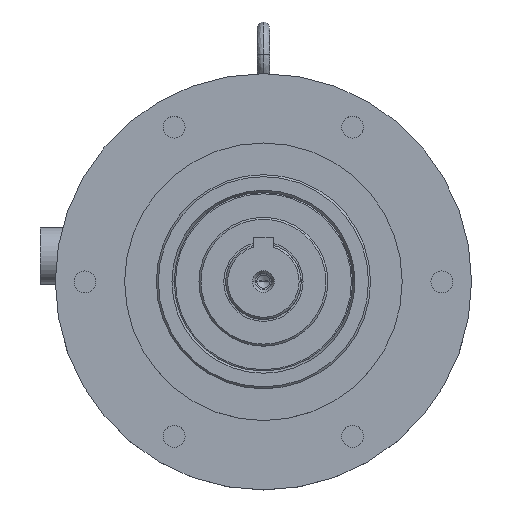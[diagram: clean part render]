
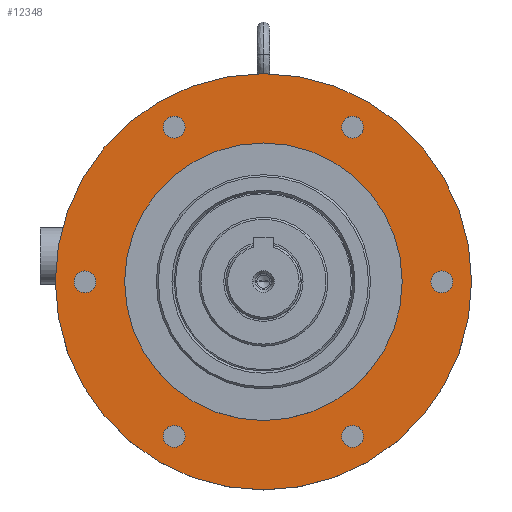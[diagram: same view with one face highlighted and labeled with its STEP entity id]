
A CAD part, top view. The second image highlights one B-rep face of the part: STEP entity #12348.
In plain terms, the highlighted planar face has unit normal (0, 0, 1).
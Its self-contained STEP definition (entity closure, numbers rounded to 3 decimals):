
#1955=CARTESIAN_POINT('',(0.,0.,0.));
#1956=DIRECTION('',(0.,0.,-1.));
#1957=DIRECTION('',(1.,0.,0.));
#1958=AXIS2_PLACEMENT_3D('',#1955,#1956,#1957);
#1960=CARTESIAN_POINT('',(0.,0.,0.));
#1961=DIRECTION('',(0.,0.,-1.));
#1962=DIRECTION('',(-1.,0.,0.));
#1963=AXIS2_PLACEMENT_3D('',#1960,#1961,#1962);
#1965=CARTESIAN_POINT('',(0.,0.,0.));
#1966=DIRECTION('',(0.,0.,1.));
#1967=DIRECTION('',(1.,0.,0.));
#1968=AXIS2_PLACEMENT_3D('',#1965,#1966,#1967);
#1970=CARTESIAN_POINT('',(0.,0.,0.));
#1971=DIRECTION('',(0.,0.,1.));
#1972=DIRECTION('',(-1.,0.,0.));
#1973=AXIS2_PLACEMENT_3D('',#1970,#1971,#1972);
#1975=CARTESIAN_POINT('',(-90.,0.,0.));
#1976=DIRECTION('',(0.,0.,1.));
#1977=DIRECTION('',(-1.,0.,0.));
#1978=AXIS2_PLACEMENT_3D('',#1975,#1976,#1977);
#1980=CARTESIAN_POINT('',(-90.,0.,0.));
#1981=DIRECTION('',(0.,0.,1.));
#1982=DIRECTION('',(1.,0.,0.));
#1983=AXIS2_PLACEMENT_3D('',#1980,#1981,#1982);
#1985=CARTESIAN_POINT('',(-45.,77.942,0.));
#1986=DIRECTION('',(0.,0.,1.));
#1987=DIRECTION('',(-0.5,0.866,0.));
#1988=AXIS2_PLACEMENT_3D('',#1985,#1986,#1987);
#1990=CARTESIAN_POINT('',(-45.,77.942,0.));
#1991=DIRECTION('',(0.,0.,1.));
#1992=DIRECTION('',(0.5,-0.866,0.));
#1993=AXIS2_PLACEMENT_3D('',#1990,#1991,#1992);
#1995=CARTESIAN_POINT('',(45.,77.942,0.));
#1996=DIRECTION('',(0.,0.,1.));
#1997=DIRECTION('',(0.5,0.866,0.));
#1998=AXIS2_PLACEMENT_3D('',#1995,#1996,#1997);
#2000=CARTESIAN_POINT('',(45.,77.942,0.));
#2001=DIRECTION('',(0.,0.,1.));
#2002=DIRECTION('',(-0.5,-0.866,0.));
#2003=AXIS2_PLACEMENT_3D('',#2000,#2001,#2002);
#2005=CARTESIAN_POINT('',(90.,0.,0.));
#2006=DIRECTION('',(0.,0.,1.));
#2007=DIRECTION('',(1.,0.,0.));
#2008=AXIS2_PLACEMENT_3D('',#2005,#2006,#2007);
#2010=CARTESIAN_POINT('',(90.,0.,0.));
#2011=DIRECTION('',(0.,0.,1.));
#2012=DIRECTION('',(-1.,0.,0.));
#2013=AXIS2_PLACEMENT_3D('',#2010,#2011,#2012);
#2015=CARTESIAN_POINT('',(45.,-77.942,0.));
#2016=DIRECTION('',(0.,0.,1.));
#2017=DIRECTION('',(0.5,-0.866,0.));
#2018=AXIS2_PLACEMENT_3D('',#2015,#2016,#2017);
#2020=CARTESIAN_POINT('',(45.,-77.942,0.));
#2021=DIRECTION('',(0.,0.,1.));
#2022=DIRECTION('',(-0.5,0.866,0.));
#2023=AXIS2_PLACEMENT_3D('',#2020,#2021,#2022);
#2025=CARTESIAN_POINT('',(-45.,-77.942,0.));
#2026=DIRECTION('',(0.,0.,1.));
#2027=DIRECTION('',(-0.5,-0.866,0.));
#2028=AXIS2_PLACEMENT_3D('',#2025,#2026,#2027);
#2030=CARTESIAN_POINT('',(-45.,-77.942,0.));
#2031=DIRECTION('',(0.,0.,1.));
#2032=DIRECTION('',(0.5,0.866,0.));
#2033=AXIS2_PLACEMENT_3D('',#2030,#2031,#2032);
#8123=CARTESIAN_POINT('',(105.,0.,0.));
#8124=VERTEX_POINT('',#8123);
#8125=CARTESIAN_POINT('',(-105.,0.,0.));
#8126=VERTEX_POINT('',#8125);
#8127=CARTESIAN_POINT('',(70.,0.,0.));
#8128=CARTESIAN_POINT('',(-70.,0.,0.));
#8129=VERTEX_POINT('',#8127);
#8130=VERTEX_POINT('',#8128);
#8131=CARTESIAN_POINT('',(-95.5,0.,0.));
#8132=CARTESIAN_POINT('',(-84.5,0.,0.));
#8133=VERTEX_POINT('',#8131);
#8134=VERTEX_POINT('',#8132);
#8135=CARTESIAN_POINT('',(-47.75,82.705,0.));
#8136=CARTESIAN_POINT('',(-42.25,73.179,0.));
#8137=VERTEX_POINT('',#8135);
#8138=VERTEX_POINT('',#8136);
#8139=CARTESIAN_POINT('',(47.75,82.705,0.));
#8140=CARTESIAN_POINT('',(42.25,73.179,0.));
#8141=VERTEX_POINT('',#8139);
#8142=VERTEX_POINT('',#8140);
#8143=CARTESIAN_POINT('',(95.5,0.,0.));
#8144=CARTESIAN_POINT('',(84.5,0.,0.));
#8145=VERTEX_POINT('',#8143);
#8146=VERTEX_POINT('',#8144);
#8147=CARTESIAN_POINT('',(47.75,-82.705,0.));
#8148=CARTESIAN_POINT('',(42.25,-73.179,0.));
#8149=VERTEX_POINT('',#8147);
#8150=VERTEX_POINT('',#8148);
#8151=CARTESIAN_POINT('',(-47.75,-82.705,0.));
#8152=CARTESIAN_POINT('',(-42.25,-73.179,0.));
#8153=VERTEX_POINT('',#8151);
#8154=VERTEX_POINT('',#8152);
#12297=CARTESIAN_POINT('',(0.,0.,0.));
#12298=DIRECTION('',(0.,0.,1.));
#12299=DIRECTION('',(1.,0.,0.));
#12300=AXIS2_PLACEMENT_3D('',#12297,#12298,#12299);
#12301=PLANE('',#12300);
#12302=ORIENTED_EDGE('',*,*,#12292,.T.);
#12303=ORIENTED_EDGE('',*,*,#12276,.T.);
#12304=EDGE_LOOP('',(#12302,#12303));
#12305=FACE_OUTER_BOUND('',#12304,.F.);
#12307=ORIENTED_EDGE('',*,*,#12306,.T.);
#12309=ORIENTED_EDGE('',*,*,#12308,.T.);
#12310=EDGE_LOOP('',(#12307,#12309));
#12311=FACE_BOUND('',#12310,.F.);
#12313=ORIENTED_EDGE('',*,*,#12312,.T.);
#12315=ORIENTED_EDGE('',*,*,#12314,.T.);
#12316=EDGE_LOOP('',(#12313,#12315));
#12317=FACE_BOUND('',#12316,.F.);
#12319=ORIENTED_EDGE('',*,*,#12318,.T.);
#12321=ORIENTED_EDGE('',*,*,#12320,.T.);
#12322=EDGE_LOOP('',(#12319,#12321));
#12323=FACE_BOUND('',#12322,.F.);
#12325=ORIENTED_EDGE('',*,*,#12324,.T.);
#12327=ORIENTED_EDGE('',*,*,#12326,.T.);
#12328=EDGE_LOOP('',(#12325,#12327));
#12329=FACE_BOUND('',#12328,.F.);
#12331=ORIENTED_EDGE('',*,*,#12330,.T.);
#12333=ORIENTED_EDGE('',*,*,#12332,.T.);
#12334=EDGE_LOOP('',(#12331,#12333));
#12335=FACE_BOUND('',#12334,.F.);
#12337=ORIENTED_EDGE('',*,*,#12336,.T.);
#12339=ORIENTED_EDGE('',*,*,#12338,.T.);
#12340=EDGE_LOOP('',(#12337,#12339));
#12341=FACE_BOUND('',#12340,.F.);
#12343=ORIENTED_EDGE('',*,*,#12342,.T.);
#12345=ORIENTED_EDGE('',*,*,#12344,.T.);
#12346=EDGE_LOOP('',(#12343,#12345));
#12347=FACE_BOUND('',#12346,.F.);
#12348=ADVANCED_FACE('',(#12305,#12311,#12317,#12323,#12329,#12335,#12341,
#12347),#12301,.T.);
#1959=CIRCLE('',#1958,105.);
#1964=CIRCLE('',#1963,105.);
#1969=CIRCLE('',#1968,70.);
#1974=CIRCLE('',#1973,70.);
#1979=CIRCLE('',#1978,5.5);
#1984=CIRCLE('',#1983,5.5);
#1989=CIRCLE('',#1988,5.5);
#1994=CIRCLE('',#1993,5.5);
#1999=CIRCLE('',#1998,5.5);
#2004=CIRCLE('',#2003,5.5);
#2009=CIRCLE('',#2008,5.5);
#2014=CIRCLE('',#2013,5.5);
#2019=CIRCLE('',#2018,5.5);
#2024=CIRCLE('',#2023,5.5);
#2029=CIRCLE('',#2028,5.5);
#2034=CIRCLE('',#2033,5.5);
#12276=EDGE_CURVE('',#8126,#8124,#1964,.T.);
#12292=EDGE_CURVE('',#8124,#8126,#1959,.T.);
#12306=EDGE_CURVE('',#8129,#8130,#1969,.T.);
#12308=EDGE_CURVE('',#8130,#8129,#1974,.T.);
#12312=EDGE_CURVE('',#8133,#8134,#1979,.T.);
#12314=EDGE_CURVE('',#8134,#8133,#1984,.T.);
#12318=EDGE_CURVE('',#8137,#8138,#1989,.T.);
#12320=EDGE_CURVE('',#8138,#8137,#1994,.T.);
#12324=EDGE_CURVE('',#8141,#8142,#1999,.T.);
#12326=EDGE_CURVE('',#8142,#8141,#2004,.T.);
#12330=EDGE_CURVE('',#8145,#8146,#2009,.T.);
#12332=EDGE_CURVE('',#8146,#8145,#2014,.T.);
#12336=EDGE_CURVE('',#8149,#8150,#2019,.T.);
#12338=EDGE_CURVE('',#8150,#8149,#2024,.T.);
#12342=EDGE_CURVE('',#8153,#8154,#2029,.T.);
#12344=EDGE_CURVE('',#8154,#8153,#2034,.T.);
